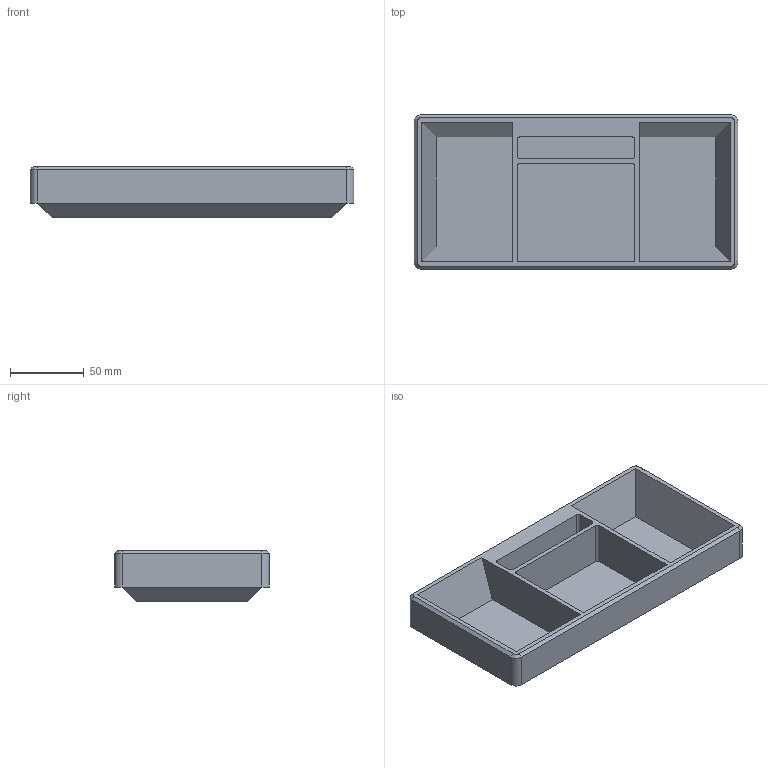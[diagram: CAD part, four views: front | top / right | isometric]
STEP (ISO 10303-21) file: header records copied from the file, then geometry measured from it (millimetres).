
FILE_DESCRIPTION(/* description */ (''),/* implementation_level */ '2;1');
FILE_NAME(/* name */ '//sgw91-nas/home/Backup/Documents/3D_Printing/My_Builds/Tissue_Box/Tissue_Box_accessory_cover_top_w-phone.step',/* time_stamp */ '2021-11-16T14:46:08+11:00',/* author */ (''),/* organization */ (''),/* preprocessor_version */ 'ST-DEVELOPER v18.1',/* originating_system */ 'Autodesk Translation Framework v10.10.0.1391',/* authorisation */ '');
FILE_SCHEMA (('AUTOMOTIVE_DESIGN { 1 0 10303 214 3 1 1 }'));
Length unit declared in the file: millimetre
Products named in the file (1): Tissue_Box
Bounding box: 220 x 105 x 35 mm (x, y, z)
Volume: 269676.9 mm3; surface area: 90898 mm2
Topology: 1 solids, 1 shells, 49 faces, 118 edges, 76 vertices
Faces by surface type: plane 35, cylinder 10, cone 4
Entity records: 1445 total; most frequent: CARTESIAN_POINT 244, DIRECTION 242, ORIENTED_EDGE 236, EDGE_CURVE 118, LINE 94, VECTOR 94, VERTEX_POINT 76, AXIS2_PLACEMENT_3D 74
